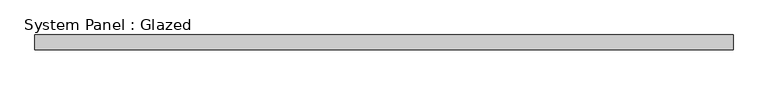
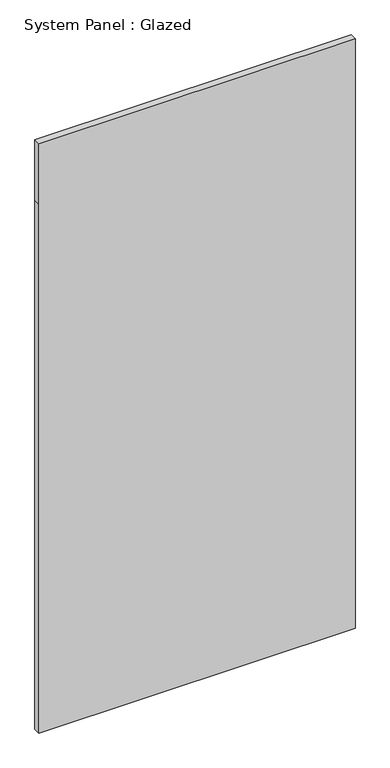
"""IFC4 building model written with IfcOpenShell, lengths in millimetres: plate geometry, System Panel : Glazed."""

from ifc_helpers import new_model, si_unit, frame, origin, place, context, project, spatial, polyline, outline, extrude, source, transform, mapped, element, save


def system_panel_glazed_1b64d018(model_context):
    return source(origin(), model_context, "Body", "SweptSolid", [
        extrude(outline(polyline([(0.0, -594.4075643), (0.0, 594.4075643), (2101.85, 594.4075643), (2343.15, 594.4075643), (2343.15, -594.4075643), (2101.85, -594.4075643), (0.0, -594.4075643)])), frame((0.0, 19.05, 0.0), z_axis=(0.0, 1.0, 0.0), x_axis=(0.0, 0.0, 1.0)), (0.0, 0.0, 1.0), 25.4),
    ])


if __name__ == "__main__":
    model = new_model("IFC4")
    model_context = context("Model", 3, world=origin())
    ifc_project = project(units=[si_unit("LENGTHUNIT", "METRE", prefix="MILLI")], contexts=[model_context])
    site = spatial("IfcSite", under=ifc_project)
    building = spatial("IfcBuilding", under=site)
    placement = place(None, origin())
    system_panel_glazed_shape = system_panel_glazed_1b64d018(model_context)
    element("IfcPlate", 1, ObjectType="System Panel : Glazed", at=placement, inside=building, context=model_context, shape_type="MappedRepresentation", body=[
        mapped(system_panel_glazed_shape, transform((0.0, 0.0, 0.0), x_axis=(1.0, 0.0, 0.0), y_axis=(0.0, 1.0, 0.0), z_axis=(0.0, 0.0, 1.0))),
    ])
    save(model, "model.ifc")
